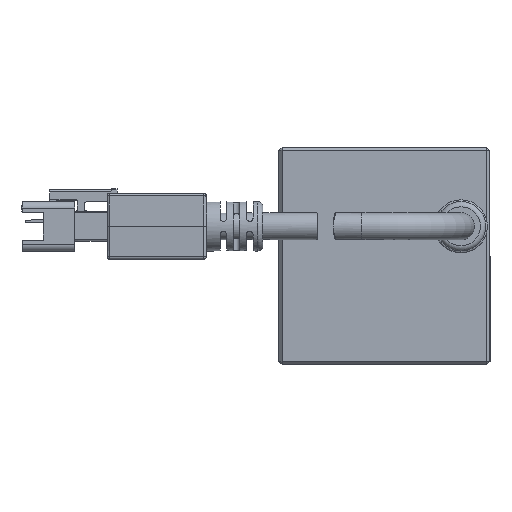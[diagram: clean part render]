
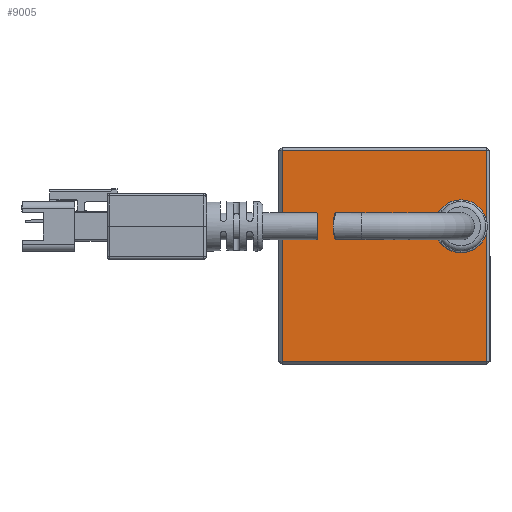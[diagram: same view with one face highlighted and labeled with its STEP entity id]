
A CAD part, left-side view. The second image highlights one B-rep face of the part: STEP entity #9005.
In plain terms, the highlighted planar face has unit normal (-1, 0, 0).
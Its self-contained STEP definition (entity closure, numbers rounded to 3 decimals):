
#388 = DIRECTION ( 'NONE',  ( 0., -1., 0. ) ) ;
#1172 = EDGE_CURVE ( 'NONE', #5342, #13656, #14463, .T. ) ;
#1215 = ORIENTED_EDGE ( 'NONE', *, *, #4416, .T. ) ;
#1489 = EDGE_LOOP ( 'NONE', ( #9410, #1215, #5641, #12041 ) ) ;
#3012 = DIRECTION ( 'NONE',  ( 0., 0., 1. ) ) ;
#4133 = CARTESIAN_POINT ( 'NONE',  ( -69.969, -22.6, 42.261 ) ) ;
#4416 = EDGE_CURVE ( 'NONE', #8344, #5342, #7354, .T. ) ;
#4649 = LINE ( 'NONE', #4875, #6828 ) ;
#4759 = CARTESIAN_POINT ( 'NONE',  ( -69.969, -30.5, 50.261 ) ) ;
#4767 = VECTOR ( 'NONE', #388, 1000. ) ;
#4875 = CARTESIAN_POINT ( 'NONE',  ( -69.969, -31., 50.261 ) ) ;
#4934 = CARTESIAN_POINT ( 'NONE',  ( -69.969, 0.5, 50.261 ) ) ;
#5342 = VERTEX_POINT ( 'NONE', #6956 ) ;
#5641 = ORIENTED_EDGE ( 'NONE', *, *, #1172, .T. ) ;
#6801 = LINE ( 'NONE', #15238, #8560 ) ;
#6828 = VECTOR ( 'NONE', #8565, 1000. ) ;
#6956 = CARTESIAN_POINT ( 'NONE',  ( -69.969, -30.5, 18.261 ) ) ;
#7225 = EDGE_CURVE ( 'NONE', #13656, #11241, #4649, .T. ) ;
#7354 = LINE ( 'NONE', #8084, #4767 ) ;
#7805 = DIRECTION ( 'NONE',  ( 0., 0., -1. ) ) ;
#8084 = CARTESIAN_POINT ( 'NONE',  ( -69.969, -31., 18.261 ) ) ;
#8211 = EDGE_CURVE ( 'NONE', #11241, #8344, #6801, .T. ) ;
#8344 = VERTEX_POINT ( 'NONE', #11702 ) ;
#8367 = DIRECTION ( 'NONE',  ( 0., 0., 1. ) ) ;
#8560 = VECTOR ( 'NONE', #7805, 1000. ) ;
#8565 = DIRECTION ( 'NONE',  ( 0., 1., 0. ) ) ;
#9005 = ADVANCED_FACE ( 'NONE', ( #15714 ), #11634, .T. ) ;
#9410 = ORIENTED_EDGE ( 'NONE', *, *, #8211, .T. ) ;
#9832 = CARTESIAN_POINT ( 'NONE',  ( -69.969, -30.5, 50.761 ) ) ;
#11241 = VERTEX_POINT ( 'NONE', #4934 ) ;
#11634 = PLANE ( 'NONE',  #15954 ) ;
#11702 = CARTESIAN_POINT ( 'NONE',  ( -69.969, 0.5, 18.261 ) ) ;
#11942 = VECTOR ( 'NONE', #8367, 1000. ) ;
#12041 = ORIENTED_EDGE ( 'NONE', *, *, #7225, .T. ) ;
#12875 = DIRECTION ( 'NONE',  ( -1., 0., 0. ) ) ;
#13656 = VERTEX_POINT ( 'NONE', #4759 ) ;
#14463 = LINE ( 'NONE', #9832, #11942 ) ;
#15238 = CARTESIAN_POINT ( 'NONE',  ( -69.969, 0.5, 46.761 ) ) ;
#15714 = FACE_OUTER_BOUND ( 'NONE', #1489, .T. ) ;
#15954 = AXIS2_PLACEMENT_3D ( 'NONE', #4133, #12875, #3012 ) ;
